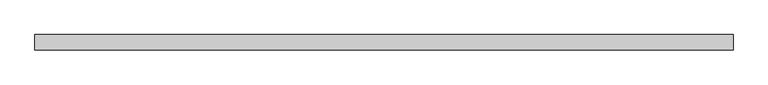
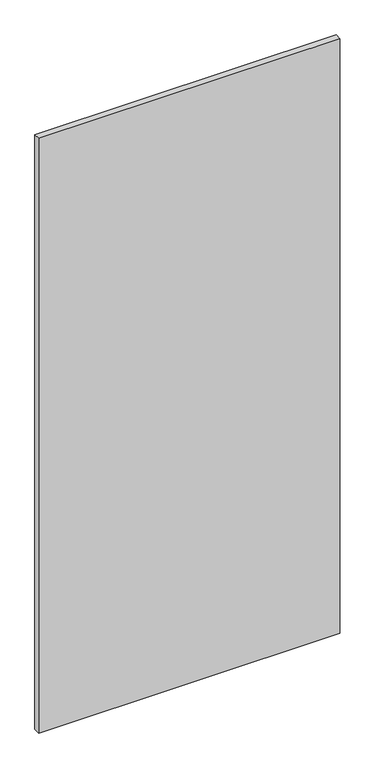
"""IFC4 building model written with IfcOpenShell, lengths in millimetres: plate geometry, システム パネル : ガラス."""

from ifc_helpers import new_model, si_unit, origin, origin_with_axes, place, context, project, spatial, polyline, outline, extrude, source, transform, mapped, element, save


def plate_b5d6bf1f(model_context):
    return source(origin(), model_context, "Body", "SweptSolid", [
        extrude(outline(polyline([(575.0000001, 24.5), (-575.0000001, 24.5), (-575.0000001, 49.5), (575.0000001, 49.5), (575.0000001, 24.5)])), origin_with_axes(), (0.0, 0.0, 1.0), 2400.0),
    ])


if __name__ == "__main__":
    model = new_model("IFC4")
    model_context = context("Model", 3, world=origin())
    ifc_project = project(units=[si_unit("LENGTHUNIT", "METRE", prefix="MILLI")], contexts=[model_context])
    site = spatial("IfcSite", under=ifc_project)
    building = spatial("IfcBuilding", under=site)
    placement = place(None, origin())
    plate_shape = plate_b5d6bf1f(model_context)
    element("IfcPlate", 1, ObjectType="システム パネル : ガラス", at=placement, inside=building, context=model_context, shape_type="MappedRepresentation", body=[
        mapped(plate_shape, transform((0.0, 0.0, 0.0), x_axis=(1.0, 0.0, 0.0), y_axis=(0.0, 1.0, 0.0), z_axis=(0.0, 0.0, 1.0))),
    ])
    save(model, "model.ifc")
